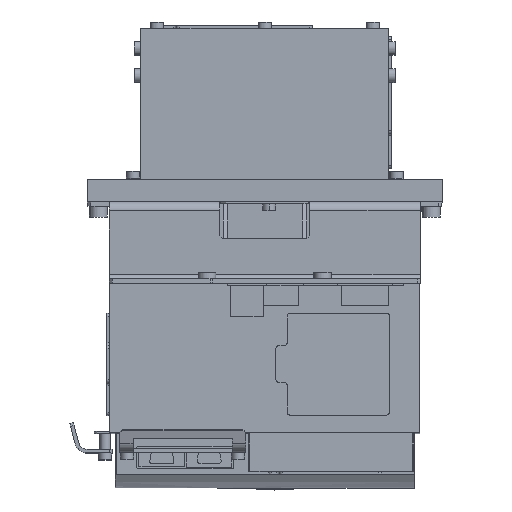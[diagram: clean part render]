
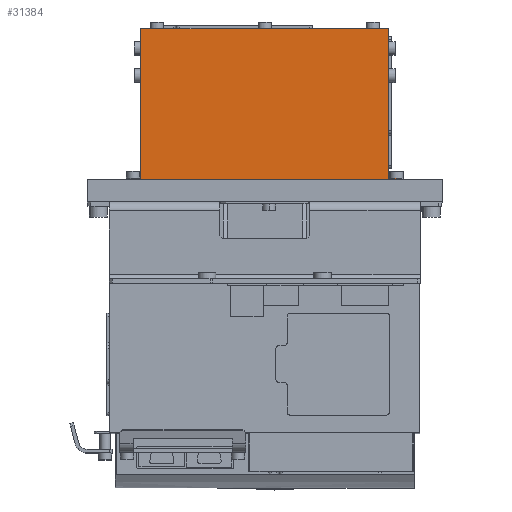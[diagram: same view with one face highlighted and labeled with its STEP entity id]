
A CAD part, top view. The second image highlights one B-rep face of the part: STEP entity #31384.
In plain terms, the highlighted planar face has unit normal (0, 0, 1).
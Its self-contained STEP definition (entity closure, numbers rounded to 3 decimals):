
#789 = DIRECTION ( 'NONE',  ( 1., 0., 0. ) ) ;
#1371 = CARTESIAN_POINT ( 'NONE',  ( 83.688, 100.75, 311.251 ) ) ;
#1444 = LINE ( 'NONE', #21487, #38314 ) ;
#1487 = CARTESIAN_POINT ( 'NONE',  ( -83.5, 100.75, 311.251 ) ) ;
#2083 = CARTESIAN_POINT ( 'NONE',  ( -83.5, 102., 311.251 ) ) ;
#3539 = LINE ( 'NONE', #19426, #23704 ) ;
#4543 = EDGE_CURVE ( 'NONE', #38540, #7558, #1444, .T. ) ;
#5724 = DIRECTION ( 'NONE',  ( 0., 1., 0. ) ) ;
#5800 = VERTEX_POINT ( 'NONE', #23553 ) ;
#6127 = VERTEX_POINT ( 'NONE', #9940 ) ;
#6786 = ORIENTED_EDGE ( 'NONE', *, *, #4543, .T. ) ;
#7558 = VERTEX_POINT ( 'NONE', #1371 ) ;
#8978 = EDGE_CURVE ( 'NONE', #5800, #33921, #33108, .T. ) ;
#9049 = DIRECTION ( 'NONE',  ( 1., 0., 0. ) ) ;
#9940 = CARTESIAN_POINT ( 'NONE',  ( 89.5, 102., 311.251 ) ) ;
#11725 = CARTESIAN_POINT ( 'NONE',  ( 81.25, 2.25, 311.251 ) ) ;
#12145 = EDGE_CURVE ( 'NONE', #12781, #7558, #3539, .T. ) ;
#12497 = CARTESIAN_POINT ( 'NONE',  ( -83.5, 0., 311.251 ) ) ;
#12781 = VERTEX_POINT ( 'NONE', #26521 ) ;
#14832 = ORIENTED_EDGE ( 'NONE', *, *, #38279, .T. ) ;
#15662 = PLANE ( 'NONE',  #48773 ) ;
#18106 = DIRECTION ( 'NONE',  ( 0., 1., 0. ) ) ;
#18390 = ORIENTED_EDGE ( 'NONE', *, *, #43171, .T. ) ;
#19426 = CARTESIAN_POINT ( 'NONE',  ( 83.5, 100.75, 311.251 ) ) ;
#21487 = CARTESIAN_POINT ( 'NONE',  ( 83.688, -353.311, 311.251 ) ) ;
#22302 = CARTESIAN_POINT ( 'NONE',  ( -89.5, 102., 311.251 ) ) ;
#23553 = CARTESIAN_POINT ( 'NONE',  ( -83.5, 100.75, 311.251 ) ) ;
#23704 = VECTOR ( 'NONE', #47005, 1000. ) ;
#23903 = VECTOR ( 'NONE', #9049, 1000. ) ;
#26265 = VECTOR ( 'NONE', #38514, 1000. ) ;
#26521 = CARTESIAN_POINT ( 'NONE',  ( 89.5, 100.75, 311.251 ) ) ;
#27858 = EDGE_CURVE ( 'NONE', #12781, #6127, #34625, .T. ) ;
#27955 = ORIENTED_EDGE ( 'NONE', *, *, #27992, .T. ) ;
#27992 = EDGE_CURVE ( 'NONE', #33921, #38540, #35136, .T. ) ;
#28568 = DIRECTION ( 'NONE',  ( 1., 0., 0. ) ) ;
#28879 = LINE ( 'NONE', #44750, #23903 ) ;
#29321 = VECTOR ( 'NONE', #5724, 1000. ) ;
#30504 = VERTEX_POINT ( 'NONE', #22302 ) ;
#31206 = VECTOR ( 'NONE', #36916, 1000. ) ;
#31384 = ADVANCED_FACE ( 'NONE', ( #47666 ), #15662, .T. ) ;
#31746 = EDGE_CURVE ( 'NONE', #30504, #6127, #28879, .T. ) ;
#32207 = CARTESIAN_POINT ( 'NONE',  ( 83.688, 0., 311.251 ) ) ;
#33108 = LINE ( 'NONE', #2083, #26265 ) ;
#33921 = VERTEX_POINT ( 'NONE', #12497 ) ;
#34443 = ORIENTED_EDGE ( 'NONE', *, *, #27858, .T. ) ;
#34625 = LINE ( 'NONE', #37997, #29321 ) ;
#35136 = LINE ( 'NONE', #44444, #48483 ) ;
#36662 = CARTESIAN_POINT ( 'NONE',  ( -89.5, 102., 311.251 ) ) ;
#36663 = DIRECTION ( 'NONE',  ( 1., 0., 0. ) ) ;
#36916 = DIRECTION ( 'NONE',  ( 0., -1., 0. ) ) ;
#37258 = CARTESIAN_POINT ( 'NONE',  ( -89.5, 100.75, 311.251 ) ) ;
#37997 = CARTESIAN_POINT ( 'NONE',  ( 89.5, 102., 311.251 ) ) ;
#38279 = EDGE_CURVE ( 'NONE', #49688, #5800, #48623, .T. ) ;
#38314 = VECTOR ( 'NONE', #18106, 1000. ) ;
#38514 = DIRECTION ( 'NONE',  ( 0., -1., 0. ) ) ;
#38540 = VERTEX_POINT ( 'NONE', #32207 ) ;
#40818 = LINE ( 'NONE', #36662, #31206 ) ;
#40990 = ORIENTED_EDGE ( 'NONE', *, *, #12145, .F. ) ;
#43171 = EDGE_CURVE ( 'NONE', #30504, #49688, #40818, .T. ) ;
#43795 = DIRECTION ( 'NONE',  ( 0., 0., 1. ) ) ;
#44444 = CARTESIAN_POINT ( 'NONE',  ( 83.5, 0., 311.251 ) ) ;
#44750 = CARTESIAN_POINT ( 'NONE',  ( -83.5, 102., 311.251 ) ) ;
#44924 = ORIENTED_EDGE ( 'NONE', *, *, #8978, .T. ) ;
#47005 = DIRECTION ( 'NONE',  ( -1., 0., 0. ) ) ;
#47666 = FACE_OUTER_BOUND ( 'NONE', #50154, .T. ) ;
#48483 = VECTOR ( 'NONE', #28568, 1000. ) ;
#48623 = LINE ( 'NONE', #1487, #49168 ) ;
#48773 = AXIS2_PLACEMENT_3D ( 'NONE', #11725, #43795, #789 ) ;
#49168 = VECTOR ( 'NONE', #36663, 1000. ) ;
#49448 = ORIENTED_EDGE ( 'NONE', *, *, #31746, .F. ) ;
#49688 = VERTEX_POINT ( 'NONE', #37258 ) ;
#50154 = EDGE_LOOP ( 'NONE', ( #14832, #44924, #27955, #6786, #40990, #34443, #49448, #18390 ) ) ;
